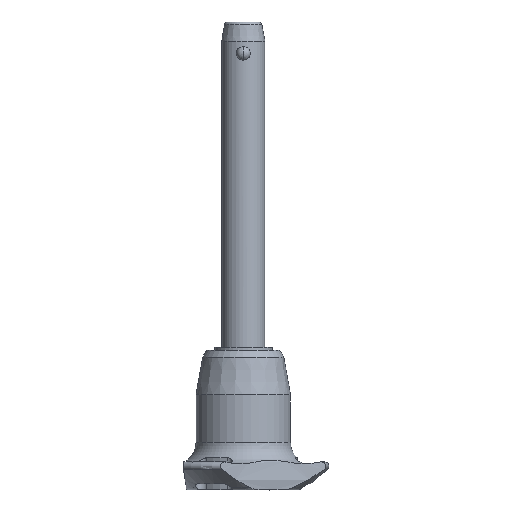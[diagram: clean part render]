
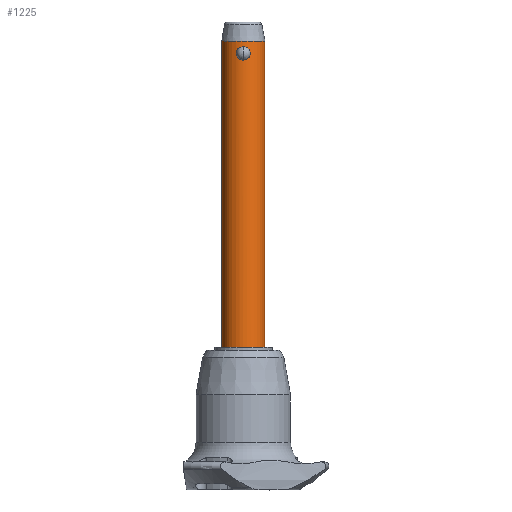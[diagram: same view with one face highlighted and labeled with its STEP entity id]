
A CAD part, front view. The second image highlights one B-rep face of the part: STEP entity #1225.
In plain terms, the highlighted cylindrical face has radius 6 mm (diameter 12 mm), a partial arc.
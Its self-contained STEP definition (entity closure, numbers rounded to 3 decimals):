
#31 = EDGE_CURVE ( 'NONE', #801, #1974, #203, .T. ) ;
#84 = CARTESIAN_POINT ( 'NONE',  ( 0.966, -5.923, 0.232 ) ) ;
#98 = ORIENTED_EDGE ( 'NONE', *, *, #2792, .T. ) ;
#112 = CARTESIAN_POINT ( 'NONE',  ( 0.127, -6., 3.708 ) ) ;
#151 = DIRECTION ( 'NONE',  ( 0., 0., 1. ) ) ;
#203 = B_SPLINE_CURVE_WITH_KNOTS ( 'NONE', 3,
 ( #496, #277, #262, #659, #2026, #2622, #2692, #1175, #1543, #348, #1445, #335, #1848, #969, #791, #530, #2298, #2524, #295, #511, #1433, #308, #2513, #320, #1459, #1216, #2272, #1203 ),
 .UNSPECIFIED., .F., .F.,
 ( 4, 2, 2, 2, 2, 2, 2, 2, 2, 2, 2, 2, 2, 4 ),
 ( 0., 0., 0.001, 0.001, 0.002, 0.002, 0.002, 0.003, 0.003, 0.004, 0.005, 0.005, 0.005, 0.006 ),
 .UNSPECIFIED. ) ;
#262 = CARTESIAN_POINT ( 'NONE',  ( -0.252, -5.996, 3.697 ) ) ;
#270 = DIRECTION ( 'NONE',  ( 0., 0., -1. ) ) ;
#277 = CARTESIAN_POINT ( 'NONE',  ( -0.127, -6., 3.708 ) ) ;
#295 = CARTESIAN_POINT ( 'NONE',  ( -1.852, -5.707, 1.239 ) ) ;
#299 = DIRECTION ( 'NONE',  ( 1., 0., 0. ) ) ;
#308 = CARTESIAN_POINT ( 'NONE',  ( -1.278, -5.863, 0.437 ) ) ;
#320 = CARTESIAN_POINT ( 'NONE',  ( -0.967, -5.923, 0.233 ) ) ;
#330 = CARTESIAN_POINT ( 'NONE',  ( 0.855, -5.94, 3.53 ) ) ;
#335 = CARTESIAN_POINT ( 'NONE',  ( -1.687, -5.759, 2.809 ) ) ;
#348 = CARTESIAN_POINT ( 'NONE',  ( -1.46, -5.821, 3.103 ) ) ;
#407 = CARTESIAN_POINT ( 'NONE',  ( -6., 0., -80. ) ) ;
#496 = CARTESIAN_POINT ( 'NONE',  ( 0., -6., 3.708 ) ) ;
#511 = CARTESIAN_POINT ( 'NONE',  ( -1.7, -5.755, 0.895 ) ) ;
#524 = CARTESIAN_POINT ( 'NONE',  ( 1.955, -5.673, 1.6 ) ) ;
#530 = CARTESIAN_POINT ( 'NONE',  ( -1.955, -5.673, 1.731 ) ) ;
#538 = CARTESIAN_POINT ( 'NONE',  ( 0., -6., 0. ) ) ;
#568 = CARTESIAN_POINT ( 'NONE',  ( 1.7, -5.755, 2.812 ) ) ;
#637 = EDGE_CURVE ( 'NONE', #1570, #1692, #2188, .T. ) ;
#659 = CARTESIAN_POINT ( 'NONE',  ( -0.498, -5.981, 3.652 ) ) ;
#691 = DIRECTION ( 'NONE',  ( 1., 0., 0. ) ) ;
#727 = CYLINDRICAL_SURFACE ( 'NONE', #2678, 6. ) ;
#732 = CARTESIAN_POINT ( 'NONE',  ( 1.89, -5.695, 2.349 ) ) ;
#747 = CARTESIAN_POINT ( 'NONE',  ( 1.459, -5.821, 0.604 ) ) ;
#758 = CARTESIAN_POINT ( 'NONE',  ( -6., 0., 5.3 ) ) ;
#764 = CARTESIAN_POINT ( 'NONE',  ( 1.955, -5.673, 1.979 ) ) ;
#786 = CARTESIAN_POINT ( 'NONE',  ( 1.851, -5.708, 2.47 ) ) ;
#791 = CARTESIAN_POINT ( 'NONE',  ( -1.955, -5.673, 2.107 ) ) ;
#800 = VECTOR ( 'NONE', #151, 1000. ) ;
#801 = VERTEX_POINT ( 'NONE', #1286 ) ;
#930 = EDGE_LOOP ( 'NONE', ( #2295, #949, #2378, #98 ) ) ;
#949 = ORIENTED_EDGE ( 'NONE', *, *, #1160, .F. ) ;
#951 = CARTESIAN_POINT ( 'NONE',  ( 1.687, -5.758, 0.899 ) ) ;
#953 = ORIENTED_EDGE ( 'NONE', *, *, #1005, .F. ) ;
#969 = CARTESIAN_POINT ( 'NONE',  ( -1.9, -5.692, 2.359 ) ) ;
#976 = CARTESIAN_POINT ( 'NONE',  ( 1.178, -5.884, 3.346 ) ) ;
#988 = CIRCLE ( 'NONE', #1027, 6. ) ;
#992 = LINE ( 'NONE', #2305, #800 ) ;
#993 = CARTESIAN_POINT ( 'NONE',  ( 0.25, -6., 0. ) ) ;
#1005 = EDGE_CURVE ( 'NONE', #1974, #801, #2419, .T. ) ;
#1027 = AXIS2_PLACEMENT_3D ( 'NONE', #2000, #1365, #2658 ) ;
#1160 = EDGE_CURVE ( 'NONE', #2093, #1570, #988, .T. ) ;
#1164 = CARTESIAN_POINT ( 'NONE',  ( 0., 0., 5.3 ) ) ;
#1167 = CARTESIAN_POINT ( 'NONE',  ( 0.498, -5.981, 3.652 ) ) ;
#1175 = CARTESIAN_POINT ( 'NONE',  ( -1.177, -5.884, 3.347 ) ) ;
#1180 = DIRECTION ( 'NONE',  ( 0., 0., 1. ) ) ;
#1193 = FACE_OUTER_BOUND ( 'NONE', #930, .T. ) ;
#1203 = CARTESIAN_POINT ( 'NONE',  ( 0., -6., 0. ) ) ;
#1210 = CARTESIAN_POINT ( 'NONE',  ( 1.543, -5.799, 0.699 ) ) ;
#1216 = CARTESIAN_POINT ( 'NONE',  ( -0.504, -5.983, 0.045 ) ) ;
#1225 = ADVANCED_FACE ( 'NONE', ( #1193, #2246 ), #727, .T. ) ;
#1286 = CARTESIAN_POINT ( 'NONE',  ( 0., -6., 3.708 ) ) ;
#1353 = VERTEX_POINT ( 'NONE', #2382 ) ;
#1365 = DIRECTION ( 'NONE',  ( 0., 0., -1. ) ) ;
#1400 = CARTESIAN_POINT ( 'NONE',  ( 1.277, -5.863, 0.437 ) ) ;
#1415 = CARTESIAN_POINT ( 'NONE',  ( 0., -6., 3.708 ) ) ;
#1433 = CARTESIAN_POINT ( 'NONE',  ( -1.551, -5.799, 0.69 ) ) ;
#1439 = CARTESIAN_POINT ( 'NONE',  ( 0.252, -5.996, 3.697 ) ) ;
#1445 = CARTESIAN_POINT ( 'NONE',  ( -1.541, -5.799, 3.011 ) ) ;
#1456 = CARTESIAN_POINT ( 'NONE',  ( 1.279, -5.863, 3.27 ) ) ;
#1458 = EDGE_LOOP ( 'NONE', ( #2505, #953 ) ) ;
#1459 = CARTESIAN_POINT ( 'NONE',  ( -0.853, -5.94, 0.177 ) ) ;
#1487 = CIRCLE ( 'NONE', #2212, 6. ) ;
#1527 = EDGE_CURVE ( 'NONE', #2093, #1353, #992, .T. ) ;
#1543 = CARTESIAN_POINT ( 'NONE',  ( -1.278, -5.863, 3.271 ) ) ;
#1570 = VERTEX_POINT ( 'NONE', #1724 ) ;
#1629 = CARTESIAN_POINT ( 'NONE',  ( 0.966, -5.923, 3.476 ) ) ;
#1631 = VECTOR ( 'NONE', #1767, 1000. ) ;
#1670 = CARTESIAN_POINT ( 'NONE',  ( 1.551, -5.799, 3.018 ) ) ;
#1692 = VERTEX_POINT ( 'NONE', #758 ) ;
#1724 = CARTESIAN_POINT ( 'NONE',  ( -6., 0., -80. ) ) ;
#1767 = DIRECTION ( 'NONE',  ( 0., 0., 1. ) ) ;
#1831 = CARTESIAN_POINT ( 'NONE',  ( 1.901, -5.692, 1.35 ) ) ;
#1844 = CARTESIAN_POINT ( 'NONE',  ( 0.503, -5.983, 0.045 ) ) ;
#1848 = CARTESIAN_POINT ( 'NONE',  ( -1.75, -5.74, 2.7 ) ) ;
#1873 = CARTESIAN_POINT ( 'NONE',  ( 1.942, -5.677, 2.103 ) ) ;
#1974 = VERTEX_POINT ( 'NONE', #2690 ) ;
#2000 = CARTESIAN_POINT ( 'NONE',  ( 0., 0., -80. ) ) ;
#2026 = CARTESIAN_POINT ( 'NONE',  ( -0.62, -5.969, 3.619 ) ) ;
#2037 = CARTESIAN_POINT ( 'NONE',  ( 1.749, -5.74, 1.007 ) ) ;
#2053 = CARTESIAN_POINT ( 'NONE',  ( 0.853, -5.94, 0.177 ) ) ;
#2093 = VERTEX_POINT ( 'NONE', #2466 ) ;
#2095 = CARTESIAN_POINT ( 'NONE',  ( 0.62, -5.969, 3.619 ) ) ;
#2188 = LINE ( 'NONE', #407, #1631 ) ;
#2212 = AXIS2_PLACEMENT_3D ( 'NONE', #1164, #270, #691 ) ;
#2246 = FACE_BOUND ( 'NONE', #1458, .T. ) ;
#2272 = CARTESIAN_POINT ( 'NONE',  ( -0.25, -6., 0. ) ) ;
#2295 = ORIENTED_EDGE ( 'NONE', *, *, #637, .F. ) ;
#2298 = CARTESIAN_POINT ( 'NONE',  ( -1.942, -5.677, 1.604 ) ) ;
#2305 = CARTESIAN_POINT ( 'NONE',  ( 6., 0., -80. ) ) ;
#2378 = ORIENTED_EDGE ( 'NONE', *, *, #1527, .T. ) ;
#2382 = CARTESIAN_POINT ( 'NONE',  ( 6., 0., 5.3 ) ) ;
#2419 = B_SPLINE_CURVE_WITH_KNOTS ( 'NONE', 3,
 ( #538, #993, #1844, #2053, #84, #2715, #1400, #747, #1210, #951, #2037, #1831, #524, #764, #1873, #732, #786, #568, #1670, #1456, #976, #1629, #330, #2095, #1167, #1439, #112, #1415 ),
 .UNSPECIFIED., .F., .F.,
 ( 4, 2, 2, 2, 2, 2, 2, 2, 2, 2, 2, 2, 2, 4 ),
 ( 0.006, 0.007, 0.007, 0.008, 0.008, 0.008, 0.009, 0.009, 0.01, 0.011, 0.011, 0.011, 0.012, 0.012 ),
 .UNSPECIFIED. ) ;
#2459 = CARTESIAN_POINT ( 'NONE',  ( 0., 0., -80. ) ) ;
#2466 = CARTESIAN_POINT ( 'NONE',  ( 6., 0., -80. ) ) ;
#2505 = ORIENTED_EDGE ( 'NONE', *, *, #31, .F. ) ;
#2513 = CARTESIAN_POINT ( 'NONE',  ( -1.179, -5.884, 0.363 ) ) ;
#2524 = CARTESIAN_POINT ( 'NONE',  ( -1.89, -5.695, 1.358 ) ) ;
#2622 = CARTESIAN_POINT ( 'NONE',  ( -0.854, -5.94, 3.53 ) ) ;
#2658 = DIRECTION ( 'NONE',  ( 1., 0., 0. ) ) ;
#2678 = AXIS2_PLACEMENT_3D ( 'NONE', #2459, #1180, #299 ) ;
#2690 = CARTESIAN_POINT ( 'NONE',  ( 0., -6., 0. ) ) ;
#2692 = CARTESIAN_POINT ( 'NONE',  ( -0.966, -5.923, 3.476 ) ) ;
#2715 = CARTESIAN_POINT ( 'NONE',  ( 1.178, -5.884, 0.362 ) ) ;
#2792 = EDGE_CURVE ( 'NONE', #1353, #1692, #1487, .T. ) ;
